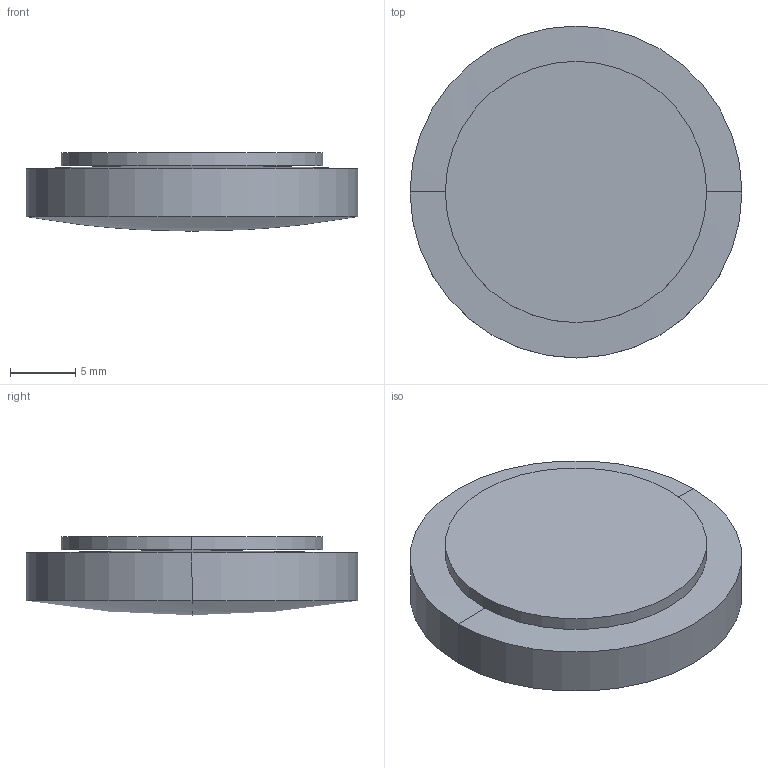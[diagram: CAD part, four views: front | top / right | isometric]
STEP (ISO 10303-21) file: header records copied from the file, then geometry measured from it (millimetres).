
FILE_DESCRIPTION(('STEP AP214'),'1');
FILE_NAME('LLU-25125.STEP','2020-03-09T17:42:08',(' '),(' '),'Spatial InterOp 3D',' ',' ');
FILE_SCHEMA(('AUTOMOTIVE_DESIGN { 1 0 10303 214 1 1 1 1 }'));
Length unit declared in the file: millimetre
Products named in the file (1): 1
Bounding box: 25.4 x 25.4 x 6 mm (x, y, z)
Volume: 2508.9 mm3; surface area: 2000.7 mm2
Topology: 2 solids, 2 shells, 10 faces, 20 edges, 10 vertices
Faces by surface type: sphere 4, cylinder 4, plane 2
Entity records: 255 total; most frequent: DIRECTION 52, CARTESIAN_POINT 38, ORIENTED_EDGE 32, AXIS2_PLACEMENT_3D 24, EDGE_CURVE 16, CIRCLE 12, ADVANCED_FACE 10, FACE_OUTER_BOUND 10
